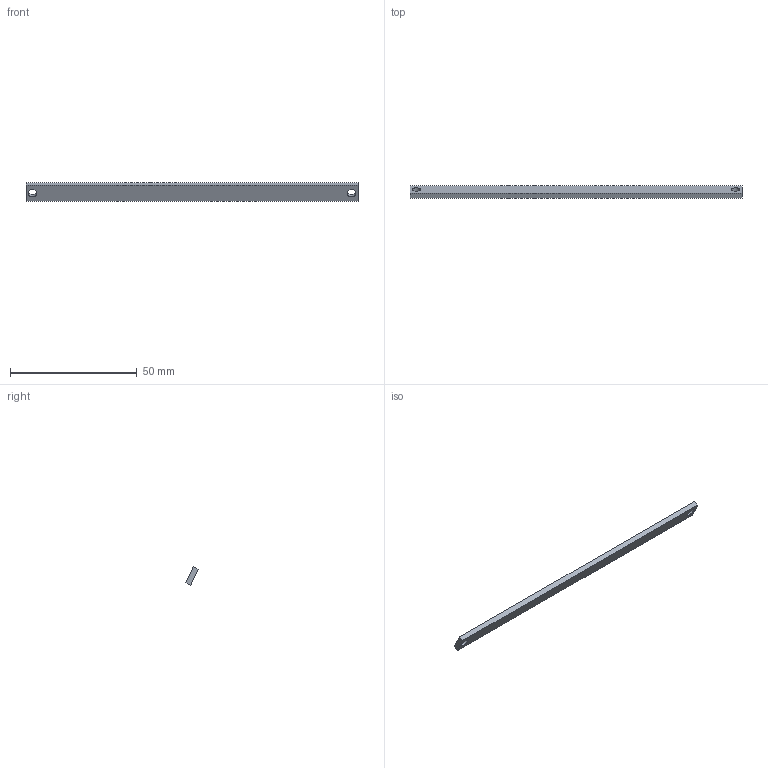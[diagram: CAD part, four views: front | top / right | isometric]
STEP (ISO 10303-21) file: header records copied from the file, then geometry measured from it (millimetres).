
FILE_DESCRIPTION(('Open CASCADE Model'),'2;1');
FILE_NAME('Open CASCADE Shape Model','2026-11-04T16:23:17',('Author'),( 'Open CASCADE'),'Open CASCADE STEP processor 7.8','Open CASCADE 7.8' ,'Unknown');
FILE_SCHEMA(('AUTOMOTIVE_DESIGN { 1 0 10303 214 1 1 1 1 }'));
Length unit declared in the file: millimetre
Products named in the file (1): Open CASCADE STEP translator 7.8 3
Bounding box: 131 x 4.77 x 7.19 mm (x, y, z)
Volume: 1797.7 mm3; surface area: 2392.4 mm2
Topology: 1 solids, 1 shells, 8 faces, 18 edges, 12 vertices
Faces by surface type: plane 6, cylinder 2
Full cylindrical faces by diameter (mm): 3.4 x2
Entity records: 478 total; most frequent: DIRECTION 76, CARTESIAN_POINT 75, LINE 46, VECTOR 46, ORIENTED_EDGE 36, PCURVE 36, DEFINITIONAL_REPRESENTATION 36, EDGE_CURVE 18
